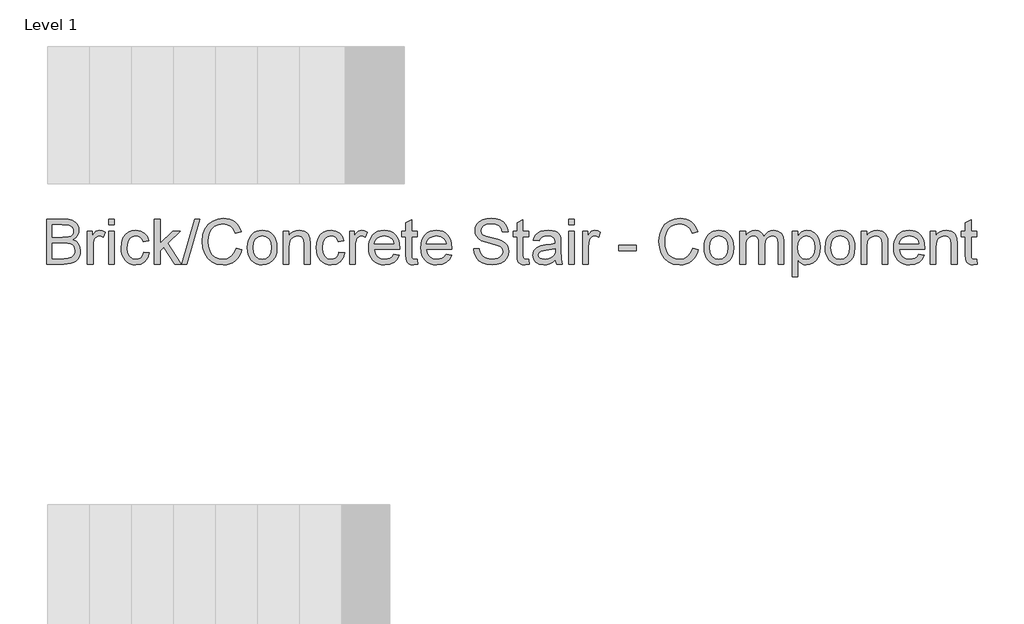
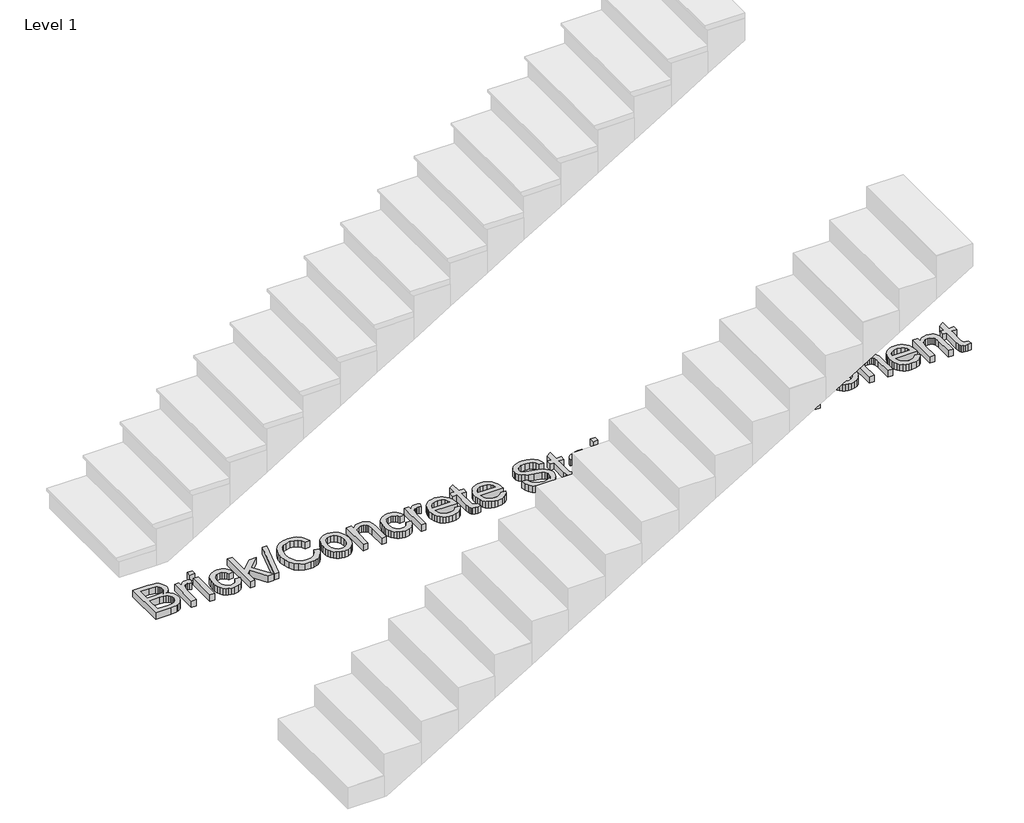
# One storey, part 14 of 15: 1 proxy.
"""IFC4 building model written with IfcOpenShell, lengths in millimetres."""

from ifc_helpers import new_model, si_unit, origin, origin_with_axes, place, context, project, spatial, polyline, outline, extrude, element, save

model = new_model("IFC4")

# Units and contexts
model_context = context("Model", 3, world=origin())
ifc_project = project(units=[si_unit("LENGTHUNIT", "METRE", prefix="MILLI")], contexts=[model_context])

# Site, building, storey
site = spatial("IfcSite", under=ifc_project)
building = spatial("IfcBuilding", under=site)
storey = spatial("IfcBuildingStorey", under=building, Name="Level 1", Elevation=0.0)

# Proxy
placement = place(None, origin())
element("IfcBuildingElementProxy", 1, Name="12\" Arial", ObjectType="12\" Arial", at=placement, inside=storey, context=model_context, shape_type="SweptSolid", body=[
    extrude(outline(polyline([(-27238.310174, 12524.8767877), (-27238.310174, 12824.987557), (-27123.7903664, 12824.987557), (-27092.2937558, 12822.7803214), (-27067.7027702, 12816.1586146), (-27048.8542606, 12804.957581), (-27034.5850779, 12789.0123646), (-27025.6004385, 12770.2554416), (-27022.6055587, 12750.6192877), (-27025.1241885, 12732.5492637), (-27032.6800779, 12715.5599608), (-27045.3281789, 12700.6954656), (-27063.1234433, 12688.9998646), (-27041.8662077, 12677.8995762), (-27026.1591164, 12661.0110185), (-27016.4601019, 12639.4515473), (-27013.2270971, 12614.3385185), (-27015.4343327, 12593.4109945), (-27022.0560394, 12574.003807), (-27031.9382269, 12557.4999127), (-27043.9269048, 12545.2822685), (-27058.6082269, 12536.4350089), (-27076.5683471, 12530.0422685), (-27124.6695971, 12524.8767877), (-27238.310174, 12524.8767877)]), holes=[polyline([(-27200.7963279, 12703.067557), (-27132.2895971, 12703.067557), (-27092.2845971, 12706.2914031), (-27078.2810154, 12711.850706), (-27068.2156548, 12720.1759223), (-27062.1434673, 12731.138831), (-27060.1194048, 12744.6112108), (-27062.0060875, 12757.6897685), (-27067.6661356, 12769.0831339), (-27076.8431067, 12777.9761868), (-27089.2805587, 12783.553807), (-27137.4917125, 12787.4737108), (-27200.7963279, 12787.4737108), (-27200.7963279, 12703.067557)]), polyline([(-27200.7963279, 12562.3906339), (-27123.8636356, 12562.3906339), (-27096.0213279, 12563.8560185), (-27072.4652702, 12572.0255377), (-27056.858924, 12588.6942877), (-27052.2704385, 12600.4723166), (-27050.7409433, 12613.9721723), (-27052.5360394, 12629.6517877), (-27057.9213279, 12643.1333262), (-27067.3272654, 12653.6749368), (-27081.1843087, 12660.5347685), (-27100.8113039, 12664.2989752), (-27127.5270971, 12665.5537108), (-27200.7963279, 12665.5537108), (-27200.7963279, 12562.3906339)])]), origin_with_axes(), (0.0, 0.0, 1.0), 50.8),
    extrude(outline(polyline([(-26966.3347894, 12524.8767877), (-26966.3347894, 12745.2706339), (-26933.510174, 12745.2706339), (-26933.510174, 12712.6658262), (-26921.3841164, 12731.5692877), (-26910.2105587, 12742.7062108), (-26899.0003664, 12748.1464512), (-26886.7644048, 12749.9598646), (-26868.080751, 12747.06573), (-26849.1040202, 12738.3833262), (-26861.6330587, 12704.7527493), (-26874.8215202, 12710.5227012), (-26888.0099817, 12712.4460185), (-26899.2110154, 12710.5959704), (-26909.221424, 12705.0458262), (-26917.3085154, 12696.2168839), (-26922.7395971, 12684.5304416), (-26927.3006067, 12663.5754416), (-26928.8209433, 12640.7154416), (-26928.8209433, 12524.8767877), (-26966.3347894, 12524.8767877)])), origin_with_axes(), (0.0, 0.0, 1.0), 50.8),
    extrude(outline(polyline([(-26825.6578664, 12524.8767877), (-26825.6578664, 12745.2706339), (-26788.1440202, 12745.2706339), (-26788.1440202, 12524.8767877), (-26825.6578664, 12524.8767877)])), origin_with_axes(), (0.0, 0.0, 1.0), 50.8),
    extrude(outline(polyline([(-26825.6578664, 12787.4737108), (-26825.6578664, 12824.987557), (-26788.1440202, 12824.987557), (-26788.1440202, 12787.4737108), (-26825.6578664, 12787.4737108)])), origin_with_axes(), (0.0, 0.0, 1.0), 50.8),
    extrude(outline(polyline([(-26591.1963279, 12604.5937108), (-26553.6824817, 12599.90448), (-26564.1416644, 12566.5395041), (-26583.7961356, 12541.32573), (-26610.7958471, 12525.4721002), (-26643.290751, 12520.187557), (-26664.3304685, 12522.030736), (-26683.1950058, 12527.5602733), (-26699.8843628, 12536.7761687), (-26714.3985394, 12549.6784223), (-26726.1468027, 12566.0243298), (-26734.5384192, 12585.5711868), (-26739.5733892, 12608.3189933), (-26741.2517125, 12634.2677493), (-26738.3850539, 12667.6510425), (-26729.7850779, 12696.58323), (-26715.3144048, 12719.946956), (-26694.8356548, 12736.6248646), (-26670.3362558, 12746.6261146), (-26643.8036356, 12749.9598646), (-26612.1055346, 12745.3805377), (-26586.7635394, 12731.642557), (-26568.5836115, 12709.4786146), (-26558.3717125, 12679.6214031), (-26595.8855587, 12674.9321723), (-26602.6904385, 12691.2986868), (-26613.287001, 12703.0309223), (-26627.0890923, 12710.0922445), (-26643.5105587, 12712.4460185), (-26667.7535154, 12707.8117396), (-26686.9958471, 12693.9089031), (-26699.5523615, 12669.9864993), (-26703.7378664, 12635.2935185), (-26699.6439481, 12600.1334464), (-26687.3621933, 12576.1286146), (-26668.4678904, 12562.308206), (-26644.5363279, 12557.7014031), (-26625.1108231, 12560.5772204), (-26609.183924, 12569.2046723), (-26597.5982269, 12583.8035666), (-26591.1963279, 12604.5937108)])), origin_with_axes(), (0.0, 0.0, 1.0), 50.8),
    extrude(outline(polyline([(-26520.8578664, 12524.8767877), (-26520.8578664, 12824.987557), (-26483.3440202, 12824.987557), (-26483.3440202, 12663.72198), (-26399.2309433, 12745.2706339), (-26347.3563279, 12745.2706339), (-26432.495174, 12662.6962108), (-26342.6670971, 12524.8767877), (-26386.4820971, 12524.8767877), (-26459.3849817, 12636.6123646), (-26483.3440202, 12613.3860185), (-26483.3440202, 12524.8767877), (-26520.8578664, 12524.8767877)])), origin_with_axes(), (0.0, 0.0, 1.0), 50.8),
    extrude(outline(polyline([(-26337.9778664, 12524.8767877), (-26253.5717125, 12824.987557), (-26219.7213279, 12824.987557), (-26304.1274817, 12524.8767877), (-26337.9778664, 12524.8767877)])), origin_with_axes(), (0.0, 0.0, 1.0), 50.8),
    extrude(outline(polyline([(-25976.9070971, 12631.5567877), (-25939.393251, 12621.8852493), (-25946.8163399, 12598.5558683), (-25956.7031067, 12578.1709945), (-25969.0535515, 12560.7306279), (-25983.867674, 12546.2347685), (-26000.8111837, 12534.8391134), (-26019.5497894, 12526.6993598), (-26040.0834914, 12521.8155077), (-26062.4122894, 12520.187557), (-26105.9250539, 12525.1149127), (-26140.4806548, 12539.89698), (-26166.9674817, 12564.0208743), (-26186.273924, 12596.9737108), (-26198.0611115, 12635.7148166), (-26201.990174, 12677.2035185), (-26197.5482269, 12720.9635666), (-26184.2223856, 12758.7521723), (-26162.7087077, 12789.3695521), (-26133.703251, 12811.6159223), (-26099.3033471, 12825.1615714), (-26061.6063279, 12829.6767877), (-26020.4748135, 12823.8335666), (-26002.5810935, 12816.5295401), (-25986.4687317, 12806.3039031), (-25972.4033291, 12793.4268358), (-25960.6504865, 12778.1685185), (-25944.0824817, 12740.5081339), (-25981.5963279, 12731.5692877), (-25994.6016164, 12758.9261868), (-26012.3694048, 12777.6922685), (-26035.119501, 12788.5452733), (-26063.0717125, 12792.1629416), (-26095.2918567, 12788.1514512), (-26121.7603664, 12776.11698), (-26141.8452942, 12757.3234223), (-26154.9146933, 12733.0346723), (-26162.0859192, 12705.5770281), (-26164.4763279, 12677.2767877), (-26161.6463039, 12642.6204416), (-26153.1562317, 12612.6533262), (-26138.6855587, 12588.5202733), (-26117.9137317, 12571.3661146), (-26093.0113519, 12561.117581), (-26066.1490202, 12557.7014031), (-26034.8355827, 12562.3539993), (-26008.7425779, 12576.3117877), (-25989.0423135, 12599.42823), (-25976.9070971, 12631.5567877)])), origin_with_axes(), (0.0, 0.0, 1.0), 50.8),
    extrude(outline(polyline([(-25901.8794048, 12635.0737108), (-25899.850763, 12663.6166555), (-25893.7648375, 12688.2122204), (-25883.6216284, 12708.8604055), (-25869.4211356, 12725.5612108), (-25855.1244769, 12736.2356219), (-25839.3441164, 12743.8602012), (-25822.0800539, 12748.4349488), (-25803.3322894, 12749.9598646), (-25782.6360214, 12748.1029476), (-25763.9226019, 12742.5321964), (-25747.192031, 12733.247611), (-25732.4443087, 12720.2491916), (-25720.4075478, 12703.9765534), (-25711.8098615, 12684.8693118), (-25706.6512498, 12662.9274668), (-25704.9317125, 12638.1510185), (-25707.9723856, 12600.2525089), (-25717.0944048, 12571.4027493), (-25732.0321692, 12549.7974848), (-25752.5200779, 12533.6324608), (-25776.8546212, 12523.5487829), (-25803.3322894, 12520.187557), (-25824.330793, 12522.037605), (-25843.2182269, 12527.5877493), (-25859.9945911, 12536.8379896), (-25874.6598856, 12549.7883262), (-25886.5684253, 12566.2189512), (-25895.074525, 12585.910057), (-25900.1781849, 12608.8616435), (-25901.8794048, 12635.0737108)]), holes=[polyline([(-25864.3655587, 12635.14698), (-25860.0243567, 12601.1958502), (-25847.000751, 12577.0078454), (-25827.4012317, 12562.5280137), (-25803.3322894, 12557.7014031), (-25779.373251, 12562.5554896), (-25759.8103664, 12577.1177493), (-25746.7867606, 12601.626307), (-25742.4455587, 12636.3192877), (-25746.8142365, 12669.2812829), (-25759.9202702, 12693.1395762), (-25779.5106308, 12707.6194079), (-25803.3322894, 12712.4460185), (-25827.4012317, 12707.6377252), (-25847.000751, 12693.2128454), (-25860.0243567, 12669.0797925), (-25864.3655587, 12635.14698)])]), origin_with_axes(), (0.0, 0.0, 1.0), 50.8),
    extrude(outline(polyline([(-25662.7286356, 12524.8767877), (-25662.7286356, 12745.2706339), (-25625.2147894, 12745.2706339), (-25625.2147894, 12714.497557), (-25612.182025, 12730.0123166), (-25596.5298856, 12741.0942877), (-25578.2583712, 12747.7434704), (-25557.3674817, 12749.9598646), (-25538.8761596, 12748.1739271), (-25521.9418087, 12742.8161146), (-25507.8191644, 12734.5550089), (-25497.7629625, 12724.0591916), (-25486.5161356, 12696.4733262), (-25484.5378664, 12660.205057), (-25484.5378664, 12524.8767877), (-25522.0517125, 12524.8767877), (-25522.0517125, 12655.14948), (-25526.3745971, 12688.3404416), (-25532.3551981, 12698.2226291), (-25541.6512317, 12705.8884223), (-25553.5666404, 12710.8066195), (-25567.4053664, 12712.4460185), (-25589.3769769, 12708.7642396), (-25608.106424, 12697.7189031), (-25615.5913339, 12688.7022084), (-25620.9376981, 12676.3792396), (-25625.2147894, 12641.81448), (-25625.2147894, 12524.8767877), (-25662.7286356, 12524.8767877)])), origin_with_axes(), (0.0, 0.0, 1.0), 50.8),
    extrude(outline(polyline([(-25292.2794048, 12604.5937108), (-25254.7655587, 12599.90448), (-25265.2247414, 12566.5395041), (-25284.8792125, 12541.32573), (-25311.878924, 12525.4721002), (-25344.3738279, 12520.187557), (-25365.4135454, 12522.030736), (-25384.2780827, 12527.5602733), (-25400.9674397, 12536.7761687), (-25415.4816164, 12549.6784223), (-25427.2298796, 12566.0243298), (-25435.6214962, 12585.5711868), (-25440.6564661, 12608.3189933), (-25442.3347894, 12634.2677493), (-25439.4681308, 12667.6510425), (-25430.8681548, 12696.58323), (-25416.3974817, 12719.946956), (-25395.9187317, 12736.6248646), (-25371.4193327, 12746.6261146), (-25344.8867125, 12749.9598646), (-25313.1886115, 12745.3805377), (-25287.8466164, 12731.642557), (-25269.6666885, 12709.4786146), (-25259.4547894, 12679.6214031), (-25296.9686356, 12674.9321723), (-25303.7735154, 12691.2986868), (-25314.3700779, 12703.0309223), (-25328.1721692, 12710.0922445), (-25344.5936356, 12712.4460185), (-25368.8365923, 12707.8117396), (-25388.078924, 12693.9089031), (-25400.6354385, 12669.9864993), (-25404.8209433, 12635.2935185), (-25400.727025, 12600.1334464), (-25388.4452702, 12576.1286146), (-25369.5509673, 12562.308206), (-25345.6194048, 12557.7014031), (-25326.1939, 12560.5772204), (-25310.267001, 12569.2046723), (-25298.6813039, 12583.8035666), (-25292.2794048, 12604.5937108)])), origin_with_axes(), (0.0, 0.0, 1.0), 50.8),
    extrude(outline(polyline([(-25221.9409433, 12524.8767877), (-25221.9409433, 12745.2706339), (-25189.1163279, 12745.2706339), (-25189.1163279, 12712.6658262), (-25176.9902702, 12731.5692877), (-25165.8167125, 12742.7062108), (-25154.6065202, 12748.1464512), (-25142.3705587, 12749.9598646), (-25123.6869048, 12747.06573), (-25104.710174, 12738.3833262), (-25117.2392125, 12704.7527493), (-25130.427674, 12710.5227012), (-25143.6161356, 12712.4460185), (-25154.8171692, 12710.5959704), (-25164.8275779, 12705.0458262), (-25172.9146692, 12696.2168839), (-25178.345751, 12684.5304416), (-25182.9067606, 12663.5754416), (-25184.4270971, 12640.7154416), (-25184.4270971, 12524.8767877), (-25221.9409433, 12524.8767877)])), origin_with_axes(), (0.0, 0.0, 1.0), 50.8),
    extrude(outline(polyline([(-24926.9590202, 12590.5260185), (-24890.1778664, 12585.8367877), (-24903.4304385, 12558.1227012), (-24924.5777702, 12537.4058262), (-24953.1436115, 12524.4921243), (-24988.6517125, 12520.187557), (-25011.9284313, 12522.044474), (-25032.6682029, 12527.6152252), (-25050.8710274, 12536.8998106), (-25066.5369048, 12549.89823), (-25079.1346332, 12566.2487168), (-25088.1330106, 12585.5895041), (-25093.532037, 12607.9205918), (-25095.3317125, 12633.24198), (-25093.5137197, 12659.4219921), (-25088.0597414, 12682.4972204), (-25078.9697774, 12702.4676651), (-25066.2438279, 12719.3333262), (-25050.6191644, 12732.7324368), (-25032.8330587, 12742.30323), (-25012.8855106, 12748.045706), (-24990.7765202, 12749.9598646), (-24969.3796152, 12748.0502853), (-24950.0296692, 12742.3215473), (-24932.7266825, 12732.7736507), (-24917.4706548, 12719.4065954), (-24905.0171753, 12702.577569), (-24896.1218327, 12682.6437589), (-24890.7846272, 12659.6051651), (-24889.0055587, 12633.4617877), (-24889.2253664, 12623.3506339), (-25057.8178664, 12623.3506339), (-25051.3243808, 12595.2702012), (-25036.2400779, 12574.6265954), (-25014.4699577, 12561.9327012), (-24987.9190202, 12557.7014031), (-24967.9531548, 12559.661355), (-24951.1378664, 12565.5412108), (-24937.4731548, 12575.7073166), (-24926.9590202, 12590.5260185)]), holes=[polyline([(-25057.8178664, 12660.86448), (-24926.5194048, 12660.86448), (-24931.593299, 12680.683807), (-24941.5395971, 12694.8614031), (-24963.4104625, 12708.0498646), (-24990.9230587, 12712.4460185), (-25016.2101019, 12708.9382541), (-25037.1193087, 12698.4149608), (-25051.6540923, 12682.0118118), (-25057.8178664, 12660.86448)])]), origin_with_axes(), (0.0, 0.0, 1.0), 50.8),
    extrude(outline(polyline([(-24771.7747894, 12556.1627493), (-24767.0855587, 12523.7777493), (-24795.147674, 12520.187557), (-24813.1535875, 12521.7445281), (-24826.580174, 12526.4154416), (-24836.0685394, 12533.6141435), (-24842.2597894, 12542.75448), (-24845.6668087, 12558.4524127), (-24846.8024817, 12585.3239031), (-24846.8024817, 12707.7567877), (-24874.9378664, 12707.7567877), (-24874.9378664, 12745.2706339), (-24846.8024817, 12745.2706339), (-24846.8024817, 12798.8304416), (-24809.2886356, 12820.88448), (-24809.2886356, 12745.2706339), (-24771.7747894, 12745.2706339), (-24771.7747894, 12707.7567877), (-24809.2886356, 12707.7567877), (-24809.2886356, 12586.4229416), (-24807.3103664, 12567.0798646), (-24800.8993087, 12560.2291916), (-24788.1138279, 12557.7014031), (-24771.7747894, 12556.1627493)])), origin_with_axes(), (0.0, 0.0, 1.0), 50.8),
    extrude(outline(polyline([(-24579.9559433, 12590.5260185), (-24543.1747894, 12585.8367877), (-24556.4273615, 12558.1227012), (-24577.5746933, 12537.4058262), (-24606.1405346, 12524.4921243), (-24641.6486356, 12520.187557), (-24664.9253543, 12522.044474), (-24685.665126, 12527.6152252), (-24703.8679505, 12536.8998106), (-24719.5338279, 12549.89823), (-24732.1315563, 12566.2487168), (-24741.1299337, 12585.5895041), (-24746.5289601, 12607.9205918), (-24748.3286356, 12633.24198), (-24746.5106428, 12659.4219921), (-24741.0566644, 12682.4972204), (-24731.9667005, 12702.4676651), (-24719.240751, 12719.3333262), (-24703.6160875, 12732.7324368), (-24685.8299817, 12742.30323), (-24665.8824337, 12748.045706), (-24643.7734433, 12749.9598646), (-24622.3765382, 12748.0502853), (-24603.0265923, 12742.3215473), (-24585.7236055, 12732.7736507), (-24570.4675779, 12719.4065954), (-24558.0140983, 12702.577569), (-24549.1187558, 12682.6437589), (-24543.7815503, 12659.6051651), (-24542.0024817, 12633.4617877), (-24542.2222894, 12623.3506339), (-24710.8147894, 12623.3506339), (-24704.3213039, 12595.2702012), (-24689.237001, 12574.6265954), (-24667.4668808, 12561.9327012), (-24640.9159433, 12557.7014031), (-24620.9500779, 12559.661355), (-24604.1347894, 12565.5412108), (-24590.4700779, 12575.7073166), (-24579.9559433, 12590.5260185)]), holes=[polyline([(-24710.8147894, 12660.86448), (-24579.5163279, 12660.86448), (-24584.5902221, 12680.683807), (-24594.5365202, 12694.8614031), (-24616.4073856, 12708.0498646), (-24643.9199817, 12712.4460185), (-24669.207025, 12708.9382541), (-24690.1162317, 12698.4149608), (-24704.6510154, 12682.0118118), (-24710.8147894, 12660.86448)])]), origin_with_axes(), (0.0, 0.0, 1.0), 50.8),
    extrude(outline(polyline([(-24396.6363279, 12628.0398646), (-24359.1224817, 12628.0398646), (-24354.8179144, 12607.2222445), (-24347.0330587, 12590.4893839), (-24334.8886837, 12577.2093358), (-24317.5055587, 12566.7501531), (-24296.2574817, 12559.9635906), (-24272.518251, 12557.7014031), (-24251.6182029, 12559.4140714), (-24233.3192125, 12564.5520762), (-24218.4913519, 12572.6849608), (-24208.0046933, 12583.3822685), (-24201.76765, 12595.6640233), (-24199.6886356, 12608.5502493), (-24201.2456067, 12621.1067637), (-24205.9165202, 12631.9597685), (-24215.4048856, 12641.2191675), (-24231.4142125, 12648.9948646), (-24286.036424, 12663.3189993), (-24321.8925539, 12672.798206), (-24344.8349817, 12681.81948), (-24363.5094769, 12694.440105), (-24376.7437317, 12709.735057), (-24384.6293327, 12727.3746243), (-24387.2578664, 12747.0290954), (-24384.0065442, 12769.000706), (-24374.2525779, 12789.4886146), (-24358.2524096, 12806.8534223), (-24336.2624817, 12819.45573), (-24309.8672414, 12827.1215233), (-24280.6511356, 12829.6767877), (-24248.9988279, 12827.0024608), (-24221.3030587, 12818.97948), (-24198.5529625, 12805.7727012), (-24181.737674, 12787.54698), (-24171.0953183, 12765.4379896), (-24166.8640202, 12740.5814031), (-24204.3778664, 12740.5814031), (-24211.265174, 12762.9651531), (-24225.6259433, 12779.1210185), (-24248.0646452, 12788.9024608), (-24279.185751, 12792.1629416), (-24311.039549, 12788.9390954), (-24332.8920971, 12779.267557), (-24345.5310394, 12765.0350089), (-24349.7440202, 12748.1281339), (-24346.758299, 12733.7124127), (-24337.8011356, 12722.117557), (-24316.6263279, 12711.7499608), (-24276.5480587, 12701.162557), (-24235.1875779, 12691.106355), (-24210.1661356, 12682.3323646), (-24188.7806789, 12668.722605), (-24173.8612317, 12651.9256339), (-24165.0964, 12632.1246243), (-24162.1747894, 12609.5027493), (-24165.5360154, 12586.3771483), (-24175.6196933, 12564.6253454), (-24192.0136837, 12545.905057), (-24214.3058471, 12531.8739993), (-24241.1132269, 12523.1091675), (-24271.0528664, 12520.187557), (-24307.8065442, 12523.3381339), (-24338.0575779, 12532.7898646), (-24362.1539962, 12548.5793839), (-24380.4438279, 12570.7433262), (-24392.1852221, 12597.7430377), (-24396.6363279, 12628.0398646)])), origin_with_axes(), (0.0, 0.0, 1.0), 50.8),
    extrude(outline(polyline([(-24030.8763279, 12556.1627493), (-24026.1870971, 12523.7777493), (-24054.2492125, 12520.187557), (-24072.255126, 12521.7445281), (-24085.6817125, 12526.4154416), (-24095.1700779, 12533.6141435), (-24101.3613279, 12542.75448), (-24104.7683471, 12558.4524127), (-24105.9040202, 12585.3239031), (-24105.9040202, 12707.7567877), (-24134.0394048, 12707.7567877), (-24134.0394048, 12745.2706339), (-24105.9040202, 12745.2706339), (-24105.9040202, 12798.8304416), (-24068.390174, 12820.88448), (-24068.390174, 12745.2706339), (-24030.8763279, 12745.2706339), (-24030.8763279, 12707.7567877), (-24068.390174, 12707.7567877), (-24068.390174, 12586.4229416), (-24066.4119048, 12567.0798646), (-24060.0008471, 12560.2291916), (-24047.2153664, 12557.7014031), (-24030.8763279, 12556.1627493)])), origin_with_axes(), (0.0, 0.0, 1.0), 50.8),
    extrude(outline(polyline([(-23852.6855587, 12553.0121723), (-23870.6090442, 12537.6439512), (-23889.0637317, 12527.5877493), (-23908.4709192, 12522.037605), (-23929.2519048, 12520.187557), (-23960.6019769, 12524.6386627), (-23983.7275779, 12537.99198), (-23997.9876019, 12558.2692396), (-24002.7409433, 12583.4921723), (-24000.9458471, 12599.0435666), (-23995.5605587, 12613.1662108), (-23987.2536596, 12625.2556339), (-23976.6937317, 12634.7073646), (-23950.4267125, 12647.0165954), (-23917.9684433, 12652.6583262), (-23879.612001, 12658.5931339), (-23852.9053664, 12665.5537108), (-23852.6855587, 12673.9064031), (-23855.268299, 12690.6484223), (-23863.0165202, 12701.6021723), (-23880.3446933, 12709.735057), (-23904.4869048, 12712.4460185), (-23926.8340202, 12710.6417637), (-23942.4403664, 12705.2289993), (-23953.0827221, 12695.2185906), (-23960.5378664, 12679.6214031), (-23998.0517125, 12684.3106339), (-23991.5399096, 12704.8260185), (-23981.8225779, 12720.9452493), (-23967.9930106, 12733.2727973), (-23949.144501, 12742.4131339), (-23926.0921692, 12748.073182), (-23899.6511356, 12749.9598646), (-23874.2908231, 12748.2929896), (-23854.1875779, 12743.2923646), (-23839.0300058, 12735.7731098), (-23828.5067125, 12726.5503454), (-23821.5278183, 12715.1478214), (-23817.0034433, 12701.0892877), (-23815.1717125, 12668.2646723), (-23815.1717125, 12621.5921723), (-23813.2667125, 12556.4191916), (-23805.793251, 12524.8767877), (-23843.3070971, 12524.8767877), (-23852.6855587, 12553.0121723)]), holes=[polyline([(-23852.6855587, 12628.0398646), (-23913.2059433, 12616.5365954), (-23945.4810394, 12610.4552493), (-23960.098251, 12600.5639031), (-23965.2270971, 12586.1298646), (-23962.4337077, 12574.9746243), (-23954.0535394, 12565.8342877), (-23940.2697654, 12559.7346243), (-23921.2655587, 12557.7014031), (-23901.1165202, 12559.9452733), (-23883.3120971, 12566.6768839), (-23868.8780587, 12576.595706), (-23858.840174, 12588.4012108), (-23854.3890683, 12600.5639031), (-23852.9053664, 12617.4158262), (-23852.6855587, 12628.0398646)])]), origin_with_axes(), (0.0, 0.0, 1.0), 50.8),
    extrude(outline(polyline([(-23763.590174, 12524.8767877), (-23763.590174, 12745.2706339), (-23726.0763279, 12745.2706339), (-23726.0763279, 12524.8767877), (-23763.590174, 12524.8767877)])), origin_with_axes(), (0.0, 0.0, 1.0), 50.8),
    extrude(outline(polyline([(-23763.590174, 12787.4737108), (-23763.590174, 12824.987557), (-23726.0763279, 12824.987557), (-23726.0763279, 12787.4737108), (-23763.590174, 12787.4737108)])), origin_with_axes(), (0.0, 0.0, 1.0), 50.8),
    extrude(outline(polyline([(-23669.8055587, 12524.8767877), (-23669.8055587, 12745.2706339), (-23636.9809433, 12745.2706339), (-23636.9809433, 12712.6658262), (-23624.8548856, 12731.5692877), (-23613.6813279, 12742.7062108), (-23602.4711356, 12748.1464512), (-23590.235174, 12749.9598646), (-23571.5515202, 12747.06573), (-23552.5747894, 12738.3833262), (-23565.1038279, 12704.7527493), (-23578.2922894, 12710.5227012), (-23591.480751, 12712.4460185), (-23602.6817846, 12710.5959704), (-23612.6921933, 12705.0458262), (-23620.7792846, 12696.2168839), (-23626.2103664, 12684.5304416), (-23630.771376, 12663.5754416), (-23632.2917125, 12640.7154416), (-23632.2917125, 12524.8767877), (-23669.8055587, 12524.8767877)])), origin_with_axes(), (0.0, 0.0, 1.0), 50.8),
    extrude(outline(polyline([(-23430.6547894, 12613.9721723), (-23430.6547894, 12651.4860185), (-23313.4240202, 12651.4860185), (-23313.4240202, 12613.9721723), (-23430.6547894, 12613.9721723)])), origin_with_axes(), (0.0, 0.0, 1.0), 50.8),
    extrude(outline(polyline([(-22938.2855587, 12631.5567877), (-22900.7717125, 12621.8852493), (-22908.1948015, 12598.5558683), (-22918.0815683, 12578.1709945), (-22930.432013, 12560.7306279), (-22945.2461356, 12546.2347685), (-22962.1896452, 12534.8391134), (-22980.928251, 12526.6993598), (-23001.4619529, 12521.8155077), (-23023.790751, 12520.187557), (-23067.3035154, 12525.1149127), (-23101.8591164, 12539.89698), (-23128.3459433, 12564.0208743), (-23147.6523856, 12596.9737108), (-23159.4395731, 12635.7148166), (-23163.3686356, 12677.2035185), (-23158.9266885, 12720.9635666), (-23145.6008471, 12758.7521723), (-23124.0871692, 12789.3695521), (-23095.0817125, 12811.6159223), (-23060.6818087, 12825.1615714), (-23022.9847894, 12829.6767877), (-22981.853275, 12823.8335666), (-22963.9595551, 12816.5295401), (-22947.8471933, 12806.3039031), (-22933.7817906, 12793.4268358), (-22922.0289481, 12778.1685185), (-22905.4609433, 12740.5081339), (-22942.9747894, 12731.5692877), (-22955.9800779, 12758.9261868), (-22973.7478664, 12777.6922685), (-22996.4979625, 12788.5452733), (-23024.450174, 12792.1629416), (-23056.6703183, 12788.1514512), (-23083.1388279, 12776.11698), (-23103.2237558, 12757.3234223), (-23116.2931548, 12733.0346723), (-23123.4643808, 12705.5770281), (-23125.8547894, 12677.2767877), (-23123.0247654, 12642.6204416), (-23114.5346933, 12612.6533262), (-23100.0640202, 12588.5202733), (-23079.2921933, 12571.3661146), (-23054.3898135, 12561.117581), (-23027.5274817, 12557.7014031), (-22996.2140442, 12562.3539993), (-22970.1210394, 12576.3117877), (-22950.420775, 12599.42823), (-22938.2855587, 12631.5567877)])), origin_with_axes(), (0.0, 0.0, 1.0), 50.8),
    extrude(outline(polyline([(-22863.2578664, 12635.0737108), (-22861.2292245, 12663.6166555), (-22855.143299, 12688.2122204), (-22845.0000899, 12708.8604055), (-22830.7995971, 12725.5612108), (-22816.5029385, 12736.2356219), (-22800.7225779, 12743.8602012), (-22783.4585154, 12748.4349488), (-22764.710751, 12749.9598646), (-22744.0144829, 12748.1029476), (-22725.3010635, 12742.5321964), (-22708.5704926, 12733.247611), (-22693.8227702, 12720.2491916), (-22681.7860094, 12703.9765534), (-22673.1883231, 12684.8693118), (-22668.0297113, 12662.9274668), (-22666.310174, 12638.1510185), (-22669.3508471, 12600.2525089), (-22678.4728664, 12571.4027493), (-22693.4106308, 12549.7974848), (-22713.8985394, 12533.6324608), (-22738.2330827, 12523.5487829), (-22764.710751, 12520.187557), (-22785.7092546, 12522.037605), (-22804.5966885, 12527.5877493), (-22821.3730527, 12536.8379896), (-22836.0383471, 12549.7883262), (-22847.9468868, 12566.2189512), (-22856.4529865, 12585.910057), (-22861.5566464, 12608.8616435), (-22863.2578664, 12635.0737108)]), holes=[polyline([(-22825.7440202, 12635.14698), (-22821.4028183, 12601.1958502), (-22808.3792125, 12577.0078454), (-22788.7796933, 12562.5280137), (-22764.710751, 12557.7014031), (-22740.7517125, 12562.5554896), (-22721.1888279, 12577.1177493), (-22708.1652221, 12601.626307), (-22703.8240202, 12636.3192877), (-22708.1926981, 12669.2812829), (-22721.2987317, 12693.1395762), (-22740.8890923, 12707.6194079), (-22764.710751, 12712.4460185), (-22788.7796933, 12707.6377252), (-22808.3792125, 12693.2128454), (-22821.4028183, 12669.0797925), (-22825.7440202, 12635.14698)])]), origin_with_axes(), (0.0, 0.0, 1.0), 50.8),
    extrude(outline(polyline([(-22624.1070971, 12524.8767877), (-22624.1070971, 12745.2706339), (-22586.593251, 12745.2706339), (-22586.593251, 12709.0023646), (-22575.3097894, 12725.661956), (-22560.8024817, 12738.7130377), (-22543.5658952, 12747.1481579), (-22524.0945971, 12749.9598646), (-22503.2311837, 12747.093206), (-22486.5074817, 12738.49323), (-22474.0150779, 12724.7277733), (-22465.8455587, 12706.3646723), (-22452.1716885, 12725.437569), (-22436.574501, 12739.0610666), (-22419.0539962, 12747.2351651), (-22399.610174, 12749.9598646), (-22371.4106789, 12745.426331), (-22350.556424, 12731.82573), (-22337.6701981, 12708.7917156), (-22333.3747894, 12675.9579416), (-22333.3747894, 12524.8767877), (-22370.8886356, 12524.8767877), (-22370.8886356, 12659.8387108), (-22374.368924, 12691.161307), (-22379.2596452, 12699.7979175), (-22386.9712317, 12706.58448), (-22396.8900539, 12710.9806339), (-22408.4024817, 12712.4460185), (-22428.7255346, 12708.6909704), (-22445.2935394, 12697.4258262), (-22456.3114, 12677.8812589), (-22459.9840202, 12649.2879416), (-22459.9840202, 12524.8767877), (-22497.4978664, 12524.8767877), (-22497.4978664, 12664.015057), (-22499.6684673, 12685.2264993), (-22506.1802702, 12700.3565954), (-22517.6377462, 12709.4236627), (-22534.6453664, 12712.4460185), (-22549.0977221, 12710.4311146), (-22562.4144048, 12704.3864031), (-22573.4047894, 12694.4584223), (-22580.878251, 12680.7937108), (-22585.164501, 12661.8352973), (-22586.593251, 12636.0262108), (-22586.593251, 12524.8767877), (-22624.1070971, 12524.8767877)])), origin_with_axes(), (0.0, 0.0, 1.0), 50.8),
    extrude(outline(polyline([(-22277.1040202, 12440.4706339), (-22277.1040202, 12745.2706339), (-22239.590174, 12745.2706339), (-22239.590174, 12708.48948), (-22227.3542125, 12726.6327733), (-22213.6528664, 12739.5922685), (-22197.680174, 12747.3679656), (-22178.630174, 12749.9598646), (-22153.2607029, 12746.3330377), (-22131.0784433, 12735.452557), (-22113.0175779, 12717.9778454), (-22100.0122894, 12694.5683262), (-22092.1541644, 12666.9275089), (-22089.5347894, 12636.7589031), (-22092.4930346, 12604.6761387), (-22101.3677702, 12575.9820762), (-22115.8750779, 12552.1329416), (-22135.7310394, 12534.5849608), (-22158.8566404, 12523.7869079), (-22183.1728664, 12520.187557), (-22200.4186115, 12522.5962829), (-22215.8143087, 12529.8224608), (-22228.9936115, 12540.7304175), (-22239.590174, 12554.18448), (-22239.590174, 12440.4706339), (-22277.1040202, 12440.4706339)]), holes=[polyline([(-22239.590174, 12633.3152493), (-22235.5328904, 12599.6846723), (-22223.3610394, 12576.1652493), (-22205.4009192, 12562.3173646), (-22183.9788279, 12557.7014031), (-22162.2087077, 12562.4822204), (-22143.7906548, 12576.8246723), (-22131.2341404, 12601.2050089), (-22127.0486356, 12636.09948), (-22131.1333952, 12669.5468839), (-22143.387674, 12693.3960185), (-22161.3203183, 12707.6835185), (-22182.440174, 12712.4460185), (-22203.6424577, 12707.3812829), (-22222.262001, 12692.1870762), (-22235.2581308, 12667.3396483), (-22239.590174, 12633.3152493)])]), origin_with_axes(), (0.0, 0.0, 1.0), 50.8),
    extrude(outline(polyline([(-22056.710174, 12635.0737108), (-22054.6815322, 12663.6166555), (-22048.5956067, 12688.2122204), (-22038.4523976, 12708.8604055), (-22024.2519048, 12725.5612108), (-22009.9552462, 12736.2356219), (-21994.1748856, 12743.8602012), (-21976.9108231, 12748.4349488), (-21958.1630587, 12749.9598646), (-21937.4667906, 12748.1029476), (-21918.7533712, 12742.5321964), (-21902.0228003, 12733.247611), (-21887.2750779, 12720.2491916), (-21875.2383171, 12703.9765534), (-21866.6406308, 12684.8693118), (-21861.482019, 12662.9274668), (-21859.7624817, 12638.1510185), (-21862.8031548, 12600.2525089), (-21871.925174, 12571.4027493), (-21886.8629385, 12549.7974848), (-21907.3508471, 12533.6324608), (-21931.6853904, 12523.5487829), (-21958.1630587, 12520.187557), (-21979.1615623, 12522.037605), (-21998.0489962, 12527.5877493), (-22014.8253603, 12536.8379896), (-22029.4906548, 12549.7883262), (-22041.3991945, 12566.2189512), (-22049.9052942, 12585.910057), (-22055.0089541, 12608.8616435), (-22056.710174, 12635.0737108)]), holes=[polyline([(-22019.1963279, 12635.14698), (-22014.855126, 12601.1958502), (-22001.8315202, 12577.0078454), (-21982.232001, 12562.5280137), (-21958.1630587, 12557.7014031), (-21934.2040202, 12562.5554896), (-21914.6411356, 12577.1177493), (-21901.6175298, 12601.626307), (-21897.2763279, 12636.3192877), (-21901.6450058, 12669.2812829), (-21914.7510394, 12693.1395762), (-21934.3414, 12707.6194079), (-21958.1630587, 12712.4460185), (-21982.232001, 12707.6377252), (-22001.8315202, 12693.2128454), (-22014.855126, 12669.0797925), (-22019.1963279, 12635.14698)])]), origin_with_axes(), (0.0, 0.0, 1.0), 50.8),
    extrude(outline(polyline([(-21817.5594048, 12524.8767877), (-21817.5594048, 12745.2706339), (-21780.0455587, 12745.2706339), (-21780.0455587, 12714.497557), (-21767.0127942, 12730.0123166), (-21751.3606548, 12741.0942877), (-21733.0891404, 12747.7434704), (-21712.198251, 12749.9598646), (-21693.7069289, 12748.1739271), (-21676.7725779, 12742.8161146), (-21662.6499337, 12734.5550089), (-21652.5937317, 12724.0591916), (-21641.3469048, 12696.4733262), (-21639.3686356, 12660.205057), (-21639.3686356, 12524.8767877), (-21676.8824817, 12524.8767877), (-21676.8824817, 12655.14948), (-21681.2053664, 12688.3404416), (-21687.1859673, 12698.2226291), (-21696.482001, 12705.8884223), (-21708.3974096, 12710.8066195), (-21722.2361356, 12712.4460185), (-21744.2077462, 12708.7642396), (-21762.9371933, 12697.7189031), (-21770.4221031, 12688.7022084), (-21775.7684673, 12676.3792396), (-21780.0455587, 12641.81448), (-21780.0455587, 12524.8767877), (-21817.5594048, 12524.8767877)])), origin_with_axes(), (0.0, 0.0, 1.0), 50.8),
    extrude(outline(polyline([(-21433.4820971, 12590.5260185), (-21396.7009433, 12585.8367877), (-21409.9535154, 12558.1227012), (-21431.1008471, 12537.4058262), (-21459.6666885, 12524.4921243), (-21495.1747894, 12520.187557), (-21518.4515082, 12522.044474), (-21539.1912798, 12527.6152252), (-21557.3941043, 12536.8998106), (-21573.0599817, 12549.89823), (-21585.6577101, 12566.2487168), (-21594.6560875, 12585.5895041), (-21600.055114, 12607.9205918), (-21601.8547894, 12633.24198), (-21600.0367966, 12659.4219921), (-21594.5828183, 12682.4972204), (-21585.4928543, 12702.4676651), (-21572.7669048, 12719.3333262), (-21557.1422414, 12732.7324368), (-21539.3561356, 12742.30323), (-21519.4085875, 12748.045706), (-21497.2995971, 12749.9598646), (-21475.9026921, 12748.0502853), (-21456.5527462, 12742.3215473), (-21439.2497594, 12732.7736507), (-21423.9937317, 12719.4065954), (-21411.5402522, 12702.577569), (-21402.6449096, 12682.6437589), (-21397.3077041, 12659.6051651), (-21395.5286356, 12633.4617877), (-21395.7484433, 12623.3506339), (-21564.3409433, 12623.3506339), (-21557.8474577, 12595.2702012), (-21542.7631548, 12574.6265954), (-21520.9930346, 12561.9327012), (-21494.4420971, 12557.7014031), (-21474.4762317, 12559.661355), (-21457.6609433, 12565.5412108), (-21443.9962317, 12575.7073166), (-21433.4820971, 12590.5260185)]), holes=[polyline([(-21564.3409433, 12660.86448), (-21433.0424817, 12660.86448), (-21438.116376, 12680.683807), (-21448.062674, 12694.8614031), (-21469.9335394, 12708.0498646), (-21497.4461356, 12712.4460185), (-21522.7331789, 12708.9382541), (-21543.6423856, 12698.4149608), (-21558.1771692, 12682.0118118), (-21564.3409433, 12660.86448)])]), origin_with_axes(), (0.0, 0.0, 1.0), 50.8),
    extrude(outline(polyline([(-21358.0147894, 12524.8767877), (-21358.0147894, 12745.2706339), (-21320.5009433, 12745.2706339), (-21320.5009433, 12714.497557), (-21307.4681789, 12730.0123166), (-21291.8160394, 12741.0942877), (-21273.544525, 12747.7434704), (-21252.6536356, 12749.9598646), (-21234.1623135, 12748.1739271), (-21217.2279625, 12742.8161146), (-21203.1053183, 12734.5550089), (-21193.0491164, 12724.0591916), (-21181.8022894, 12696.4733262), (-21179.8240202, 12660.205057), (-21179.8240202, 12524.8767877), (-21217.3378664, 12524.8767877), (-21217.3378664, 12655.14948), (-21221.660751, 12688.3404416), (-21227.6413519, 12698.2226291), (-21236.9373856, 12705.8884223), (-21248.8527942, 12710.8066195), (-21262.6915202, 12712.4460185), (-21284.6631308, 12708.7642396), (-21303.3925779, 12697.7189031), (-21310.8774878, 12688.7022084), (-21316.2238519, 12676.3792396), (-21320.5009433, 12641.81448), (-21320.5009433, 12524.8767877), (-21358.0147894, 12524.8767877)])), origin_with_axes(), (0.0, 0.0, 1.0), 50.8),
    extrude(outline(polyline([(-21048.5255587, 12556.1627493), (-21043.8363279, 12523.7777493), (-21071.8984433, 12520.187557), (-21089.9043567, 12521.7445281), (-21103.3309433, 12526.4154416), (-21112.8193087, 12533.6141435), (-21119.0105587, 12542.75448), (-21122.4175779, 12558.4524127), (-21123.553251, 12585.3239031), (-21123.553251, 12707.7567877), (-21151.6886356, 12707.7567877), (-21151.6886356, 12745.2706339), (-21123.553251, 12745.2706339), (-21123.553251, 12798.8304416), (-21086.0394048, 12820.88448), (-21086.0394048, 12745.2706339), (-21048.5255587, 12745.2706339), (-21048.5255587, 12707.7567877), (-21086.0394048, 12707.7567877), (-21086.0394048, 12586.4229416), (-21084.0611356, 12567.0798646), (-21077.6500779, 12560.2291916), (-21064.8645971, 12557.7014031), (-21048.5255587, 12556.1627493)])), origin_with_axes(), (0.0, 0.0, 1.0), 50.8),
])

save(model, "model.ifc")
